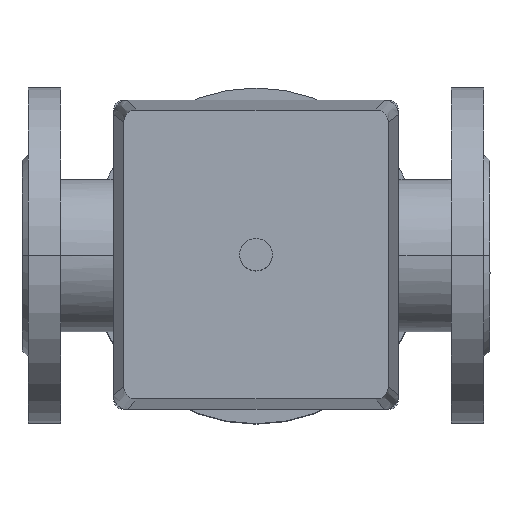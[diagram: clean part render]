
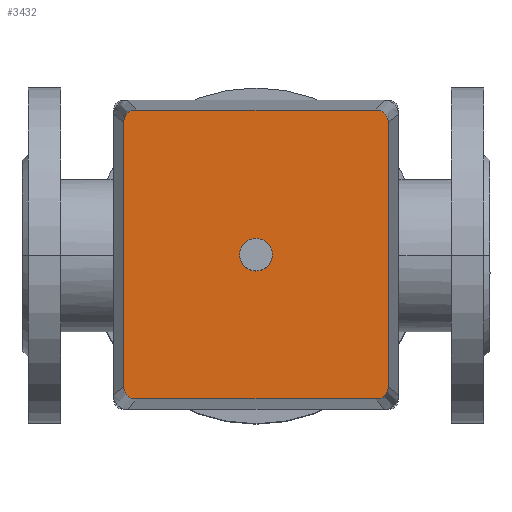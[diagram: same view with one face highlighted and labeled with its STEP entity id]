
A CAD part, top view. The second image highlights one B-rep face of the part: STEP entity #3432.
In plain terms, the highlighted planar face has unit normal (0, 0, 1).
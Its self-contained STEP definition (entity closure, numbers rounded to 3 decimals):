
#327=LINE('',#5953,#537);
#328=LINE('',#5957,#538);
#329=LINE('',#5961,#539);
#330=LINE('',#5965,#540);
#537=VECTOR('',#4800,304.8);
#538=VECTOR('',#4803,304.8);
#539=VECTOR('',#4806,304.8);
#540=VECTOR('',#4809,304.8);
#886=FACE_OUTER_BOUND('',#1128,.T.);
#1128=EDGE_LOOP('',(#2831,#2832,#2833,#2834,#2835,#2836,#2837,#2838));
#1359=CIRCLE('',#3844,6.);
#1360=CIRCLE('',#3845,6.);
#1361=CIRCLE('',#3846,6.);
#1362=CIRCLE('',#3847,6.);
#1643=VERTEX_POINT('',#5951);
#1644=VERTEX_POINT('',#5952);
#1645=VERTEX_POINT('',#5954);
#1646=VERTEX_POINT('',#5956);
#1647=VERTEX_POINT('',#5958);
#1648=VERTEX_POINT('',#5960);
#1649=VERTEX_POINT('',#5962);
#1650=VERTEX_POINT('',#5964);
#2051=EDGE_CURVE('',#1643,#1644,#327,.T.);
#2052=EDGE_CURVE('',#1644,#1645,#1359,.T.);
#2053=EDGE_CURVE('',#1645,#1646,#328,.T.);
#2054=EDGE_CURVE('',#1646,#1647,#1360,.T.);
#2055=EDGE_CURVE('',#1647,#1648,#329,.T.);
#2056=EDGE_CURVE('',#1648,#1649,#1361,.T.);
#2057=EDGE_CURVE('',#1649,#1650,#330,.T.);
#2058=EDGE_CURVE('',#1650,#1643,#1362,.T.);
#2831=ORIENTED_EDGE('',*,*,#2051,.T.);
#2832=ORIENTED_EDGE('',*,*,#2052,.T.);
#2833=ORIENTED_EDGE('',*,*,#2053,.T.);
#2834=ORIENTED_EDGE('',*,*,#2054,.T.);
#2835=ORIENTED_EDGE('',*,*,#2055,.T.);
#2836=ORIENTED_EDGE('',*,*,#2056,.T.);
#2837=ORIENTED_EDGE('',*,*,#2057,.T.);
#2838=ORIENTED_EDGE('',*,*,#2058,.T.);
#3096=PLANE('',#3843);
#3432=ADVANCED_FACE('',(#886),#3096,.T.);
#3843=AXIS2_PLACEMENT_3D('',#5950,#4798,#4799);
#3844=AXIS2_PLACEMENT_3D('',#5955,#4801,#4802);
#3845=AXIS2_PLACEMENT_3D('',#5959,#4804,#4805);
#3846=AXIS2_PLACEMENT_3D('',#5963,#4807,#4808);
#3847=AXIS2_PLACEMENT_3D('',#5966,#4810,#4811);
#4798=DIRECTION('center_axis',(0.,0.,1.));
#4799=DIRECTION('ref_axis',(0.,-1.,0.));
#4800=DIRECTION('',(0.,-1.,0.));
#4801=DIRECTION('center_axis',(0.,0.,1.));
#4802=DIRECTION('ref_axis',(1.,0.,0.));
#4803=DIRECTION('',(1.,0.,0.));
#4804=DIRECTION('center_axis',(0.,0.,1.));
#4805=DIRECTION('ref_axis',(1.,0.,0.));
#4806=DIRECTION('',(0.,1.,0.));
#4807=DIRECTION('center_axis',(0.,0.,1.));
#4808=DIRECTION('ref_axis',(1.,0.,0.));
#4809=DIRECTION('',(-1.,0.,0.));
#4810=DIRECTION('center_axis',(0.,0.,1.));
#4811=DIRECTION('ref_axis',(1.,0.,0.));
#5950=CARTESIAN_POINT('Origin',(0.,0.,
220.));
#5951=CARTESIAN_POINT('',(-71.,59.,220.));
#5952=CARTESIAN_POINT('',(-71.,-59.,220.));
#5953=CARTESIAN_POINT('',(-71.,-59.,220.));
#5954=CARTESIAN_POINT('',(-65.,-65.,220.));
#5955=CARTESIAN_POINT('Origin',(-65.,-59.,220.));
#5956=CARTESIAN_POINT('',(65.,-65.,220.));
#5957=CARTESIAN_POINT('',(65.,-65.,220.));
#5958=CARTESIAN_POINT('',(71.,-59.,220.));
#5959=CARTESIAN_POINT('Origin',(65.,-59.,220.));
#5960=CARTESIAN_POINT('',(71.,59.,220.));
#5961=CARTESIAN_POINT('',(71.,59.,220.));
#5962=CARTESIAN_POINT('',(65.,65.,220.));
#5963=CARTESIAN_POINT('Origin',(65.,59.,220.));
#5964=CARTESIAN_POINT('',(-65.,65.,220.));
#5965=CARTESIAN_POINT('',(-65.,65.,220.));
#5966=CARTESIAN_POINT('Origin',(-65.,59.,220.));
